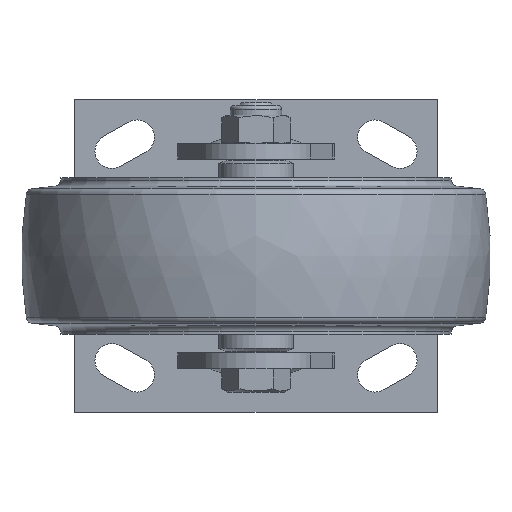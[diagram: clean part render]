
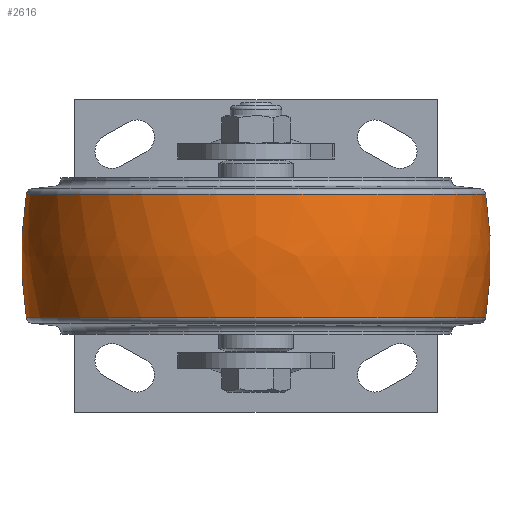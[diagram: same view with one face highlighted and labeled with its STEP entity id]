
A CAD part, front view. The second image highlights one B-rep face of the part: STEP entity #2616.
In plain terms, the highlighted free-form (B-spline) face has degree [3, 3] with [7, 4] control points.
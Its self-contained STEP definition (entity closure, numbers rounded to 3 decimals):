
#2188=CARTESIAN_POINT('',(0.,-51.741,0.));
#2189=DIRECTION('',(0.,0.,1.));
#2190=DIRECTION('',(0.156,0.988,0.));
#2191=AXIS2_PLACEMENT_3D('',#2188,#2189,#2190);
#2193=CARTESIAN_POINT('',(0.,51.741,0.));
#2194=DIRECTION('',(0.,0.,-1.));
#2195=DIRECTION('',(0.156,-0.988,0.));
#2196=AXIS2_PLACEMENT_3D('',#2193,#2194,#2195);
#2198=CARTESIAN_POINT('',(19.804,0.,0.));
#2199=DIRECTION('',(-1.,0.,0.));
#2200=DIRECTION('',(0.,1.,0.));
#2201=AXIS2_PLACEMENT_3D('',#2198,#2199,#2200);
#2213=CARTESIAN_POINT('',(-19.804,0.,0.));
#2214=DIRECTION('',(-1.,0.,0.));
#2215=DIRECTION('',(0.,1.,0.));
#2216=AXIS2_PLACEMENT_3D('',#2213,#2214,#2215);
#2423=CARTESIAN_POINT('',(19.804,73.443,0.));
#2424=VERTEX_POINT('',#2423);
#2425=CARTESIAN_POINT('',(-19.804,73.443,0.));
#2426=VERTEX_POINT('',#2425);
#2455=CARTESIAN_POINT('',(19.804,-73.443,
0.));
#2456=VERTEX_POINT('',#2455);
#2457=CARTESIAN_POINT('',(-19.804,-73.443,
0.));
#2458=VERTEX_POINT('',#2457);
#2580=CARTESIAN_POINT('',(-20.589,-73.172,
4.604));
#2581=CARTESIAN_POINT('',(-6.924,-75.417,
4.745));
#2582=CARTESIAN_POINT('',(6.924,-75.417,4.745));
#2583=CARTESIAN_POINT('',(20.589,-73.172,4.604));
#2584=CARTESIAN_POINT('',(-20.589,-76.005,
-40.426));
#2585=CARTESIAN_POINT('',(-6.924,-78.337,
-41.667));
#2586=CARTESIAN_POINT('',(6.924,-78.337,
-41.667));
#2587=CARTESIAN_POINT('',(20.589,-76.005,
-40.426));
#2588=CARTESIAN_POINT('',(-20.589,-45.119,
-73.316));
#2589=CARTESIAN_POINT('',(-6.924,-46.503,
-75.566));
#2590=CARTESIAN_POINT('',(6.924,-46.503,
-75.566));
#2591=CARTESIAN_POINT('',(20.589,-45.119,
-73.316));
#2592=CARTESIAN_POINT('',(-20.589,0.,
-73.316));
#2593=CARTESIAN_POINT('',(-6.924,0.,
-75.566));
#2594=CARTESIAN_POINT('',(6.924,0.,
-75.566));
#2595=CARTESIAN_POINT('',(20.589,0.,
-73.316));
#2596=CARTESIAN_POINT('',(-20.589,45.119,
-73.316));
#2597=CARTESIAN_POINT('',(-6.924,46.503,
-75.566));
#2598=CARTESIAN_POINT('',(6.924,46.503,-75.566));
#2599=CARTESIAN_POINT('',(20.589,45.119,-73.316));
#2600=CARTESIAN_POINT('',(-20.589,76.005,
-40.426));
#2601=CARTESIAN_POINT('',(-6.924,78.337,
-41.667));
#2602=CARTESIAN_POINT('',(6.924,78.337,-41.667));
#2603=CARTESIAN_POINT('',(20.589,76.005,-40.426));
#2604=CARTESIAN_POINT('',(-20.589,73.172,4.604));
#2605=CARTESIAN_POINT('',(-6.924,75.417,4.745));
#2606=CARTESIAN_POINT('',(6.924,75.417,4.745));
#2607=CARTESIAN_POINT('',(20.589,73.172,4.604));
#2608=(BOUNDED_SURFACE()B_SPLINE_SURFACE(3,3,((#2580,#2581,#2582,#2583),(#2584,
#2585,#2586,#2587),(#2588,#2589,#2590,#2591),(#2592,#2593,#2594,#2595),(#2596,
#2597,#2598,#2599),(#2600,#2601,#2602,#2603),(#2604,#2605,#2606,#2607)),
.UNSPECIFIED.,.F.,.F.,.F.)B_SPLINE_SURFACE_WITH_KNOTS((4,3,4),(4,4),(0.,1.,
2.),(0.,1.),.UNSPECIFIED.)GEOMETRIC_REPRESENTATION_ITEM()RATIONAL_B_SPLINE_SURFACE(((1.195,1.185,1.185,1.195),(
0.944,0.935,0.935,0.944),(
0.944,0.935,0.935,0.944),(
1.195,1.185,1.185,1.195),(
0.944,0.935,0.935,0.944),(
0.944,0.935,0.935,0.944),(
1.195,1.185,1.185,1.195)))REPRESENTATION_ITEM('')SURFACE());
#2609=ORIENTED_EDGE('',*,*,#2570,.T.);
#2611=ORIENTED_EDGE('',*,*,#2610,.T.);
#2612=ORIENTED_EDGE('',*,*,#2573,.F.);
#2613=ORIENTED_EDGE('',*,*,#2520,.F.);
#2614=EDGE_LOOP('',(#2609,#2611,#2612,#2613));
#2615=FACE_OUTER_BOUND('',#2614,.F.);
#2192=CIRCLE('',#2191,126.741);
#2197=CIRCLE('',#2196,126.741);
#2202=CIRCLE('',#2201,73.443);
#2217=CIRCLE('',#2216,73.443);
#2520=EDGE_CURVE('',#2424,#2456,#2202,.T.);
#2570=EDGE_CURVE('',#2424,#2426,#2192,.T.);
#2573=EDGE_CURVE('',#2456,#2458,#2197,.T.);
#2610=EDGE_CURVE('',#2426,#2458,#2217,.T.);
#2616=ADVANCED_FACE('',(#2615),#2608,.T.);
